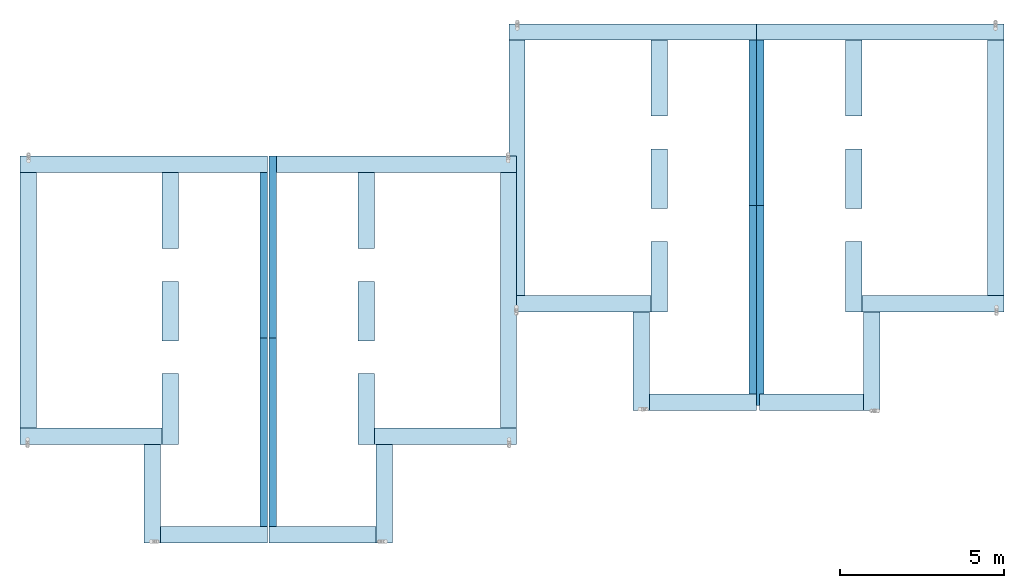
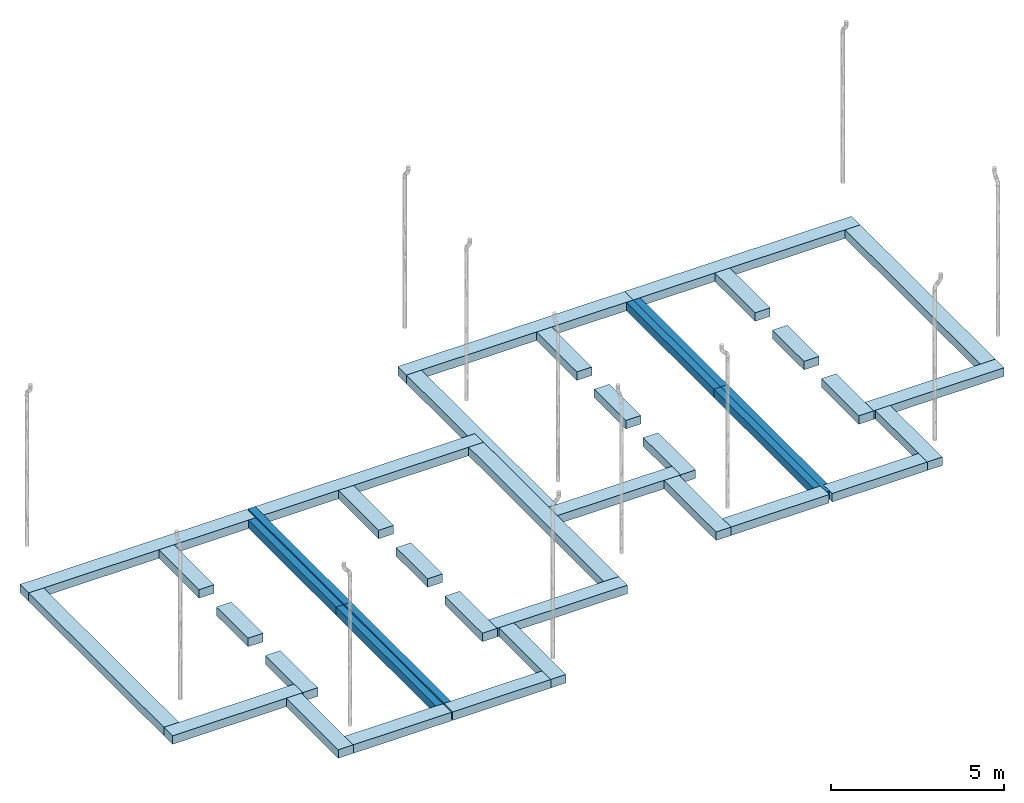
# One storey, incomplete: 32 footings.
"""IFC2X3 building model written with IfcOpenShell, lengths in metres."""

from ifc_helpers import new_model, entity, si_unit, converted_unit, derived_unit, direction, frame, frame_2d, origin, origin_2d_with_axis, place, context, subcontext, project, spatial, polyline, rectangle, outline, extrude, material, element, save


model = new_model("IFC2X3")

# Units and contexts
model_context = context("Model", 3, precision=1e-05, world=origin(), true_north=direction((6.12303176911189e-17, 1.0)))
body_context = subcontext(model_context, "Body", "Model", "MODEL_VIEW")
ifc_project = project(units=[si_unit("LENGTHUNIT", "METRE"), si_unit("AREAUNIT", "SQUARE_METRE"), si_unit("VOLUMEUNIT", "CUBIC_METRE"), converted_unit("PLANEANGLEUNIT", "DEGREE", entity("IfcRatioMeasure", 0.0174532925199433), si_unit("PLANEANGLEUNIT", "RADIAN"), dimensions=[0, 0, 0, 0, 0, 0, 0]), si_unit("MASSUNIT", "GRAM", prefix="KILO"), derived_unit("MASSDENSITYUNIT", [(si_unit("MASSUNIT", "GRAM", prefix="KILO"), 1), (si_unit("LENGTHUNIT", "METRE"), -3)]), si_unit("TIMEUNIT", "SECOND"), si_unit("FREQUENCYUNIT", "HERTZ"), si_unit("THERMODYNAMICTEMPERATUREUNIT", "DEGREE_CELSIUS"), derived_unit("THERMALTRANSMITTANCEUNIT", [(si_unit("MASSUNIT", "GRAM", prefix="KILO"), 1), (si_unit("THERMODYNAMICTEMPERATUREUNIT", "KELVIN"), -1), (si_unit("TIMEUNIT", "SECOND"), -3)]), derived_unit("VOLUMETRICFLOWRATEUNIT", [(si_unit("LENGTHUNIT", "METRE"), 3), (si_unit("TIMEUNIT", "SECOND"), -1)]), si_unit("ELECTRICCURRENTUNIT", "AMPERE"), si_unit("ELECTRICVOLTAGEUNIT", "VOLT"), si_unit("POWERUNIT", "WATT"), si_unit("FORCEUNIT", "NEWTON", prefix="KILO"), si_unit("ILLUMINANCEUNIT", "LUX"), si_unit("LUMINOUSFLUXUNIT", "LUMEN"), si_unit("LUMINOUSINTENSITYUNIT", "CANDELA"), derived_unit("USERDEFINED", [(si_unit("MASSUNIT", "GRAM", prefix="KILO"), -1), (si_unit("LENGTHUNIT", "METRE"), -2), (si_unit("TIMEUNIT", "SECOND"), 3), (si_unit("LUMINOUSFLUXUNIT", "LUMEN"), 1)]), derived_unit("LINEARVELOCITYUNIT", [(si_unit("LENGTHUNIT", "METRE"), 1), (si_unit("TIMEUNIT", "SECOND"), -1)]), si_unit("PRESSUREUNIT", "PASCAL"), derived_unit("USERDEFINED", [(si_unit("LENGTHUNIT", "METRE"), -2), (si_unit("MASSUNIT", "GRAM", prefix="KILO"), 1), (si_unit("TIMEUNIT", "SECOND"), -2)])], contexts=[model_context])

# Site, building, storey
site_placement = place(None, origin())
site = spatial("IfcSite", under=ifc_project, at=site_placement, Name="Surface", CompositionType="ELEMENT")
building_placement = place(site_placement, origin())
building = spatial("IfcBuilding", under=site, at=building_placement, CompositionType="ELEMENT")
storey_placement = place(building_placement, frame((0.0, 0.0, -1.0)))
storey = spatial("IfcBuildingStorey", under=building, at=storey_placement, Name="Plan de fondation", CompositionType="ELEMENT", Elevation=-1.0)

# Footings
ifc_material = material(Name="Béton")
footing_1_placement = place(storey_placement, origin())
element("IfcFooting", 1, at=footing_1_placement, inside=storey, material=ifc_material, Name="Semelle filante:semelle  ht 30 cm larg 50 cm", ObjectType="Semelle filante:semelle  ht 30 cm larg 50 cm", PredefinedType="STRIP_FOOTING", context=body_context, shape_type="SweptSolid", body=[
    extrude(rectangle(XDim=7.55826294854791, YDim=0.500000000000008, at=frame_2d((0.236032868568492, 0.125000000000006), x_axis=(1.0, 0.0))), frame((87.2698843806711, 92.2225239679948, -0.3)), (0.0, 0.0, 1.0), 0.3),
])
footing_2_placement = place(storey_placement, origin())
element("IfcFooting", 2, at=footing_2_placement, inside=storey, material=ifc_material, Name="Semelle filante:semelle  ht 30 cm larg 50 cm", ObjectType="Semelle filante:semelle  ht 30 cm larg 50 cm", PredefinedType="STRIP_FOOTING", context=body_context, shape_type="SweptSolid", body=[
    extrude(rectangle(XDim=2.15999999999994, YDim=0.500000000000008, at=frame_2d((0.116, 0.0499999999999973), x_axis=(1.0, 0.0))), frame((86.7467857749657, 84.7615239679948, -0.3), z_axis=(0.0, 0.0, 1.0), x_axis=(0.0, 1.0, 0.0)), (0.0, 0.0, 1.0), 0.3),
    extrude(rectangle(XDim=2.32000000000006, YDim=0.500000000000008, at=frame_2d((0.0, -8.67361737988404e-15), x_axis=(1.0, 0.0))), frame((86.6967857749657, 90.9375239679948, -0.3), z_axis=(0.0, 0.0, 1.0), x_axis=(0.0, -1.0, 0.0)), (0.0, 0.0, 1.0), 0.3),
    extrude(rectangle(XDim=1.82, YDim=0.500000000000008, at=frame_2d((0.0, -8.67361737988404e-15), x_axis=(1.0, 0.0))), frame((86.6967857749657, 87.8675239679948, -0.3), z_axis=(0.0, 0.0, 1.0), x_axis=(0.0, -1.0, 0.0)), (0.0, 0.0, 1.0), 0.3),
])
footing_3_placement = place(storey_placement, origin())
element("IfcFooting", 3, at=footing_3_placement, inside=storey, material=ifc_material, Name="Semelle filante:semelle  ht 30 cm larg 50 cm", ObjectType="Semelle filante:semelle  ht 30 cm larg 50 cm", PredefinedType="STRIP_FOOTING", context=body_context, shape_type="SweptSolid", body=[
    extrude(rectangle(XDim=4.33826294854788, YDim=0.500000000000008, at=frame_2d((-0.295590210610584, -0.0357142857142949), x_axis=(1.0, 0.0))), frame((88.820327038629, 84.0118096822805, -0.3), z_axis=(0.0, 0.0, 1.0), x_axis=(-1.0, 0.0, 0.0)), (0.0, 0.0, 1.0), 0.3),
])
footing_4_placement = place(storey_placement, origin())
element("IfcFooting", 4, at=footing_4_placement, inside=storey, material=ifc_material, Name="Semelle filante:semelle  ht 30 cm larg 50 cm", ObjectType="Semelle filante:semelle  ht 30 cm larg 50 cm", PredefinedType="STRIP_FOOTING", context=body_context, shape_type="SweptSolid", body=[
    extrude(rectangle(XDim=2.99999999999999, YDim=0.500000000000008, at=frame_2d((0.199999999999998, -0.0500000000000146), x_axis=(1.0, 0.0))), frame((87.1967857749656, 82.0975239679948, -0.3), z_axis=(0.0, 0.0, 1.0), x_axis=(0.0, 1.0, 0.0)), (0.0, 0.0, 1.0), 0.3),
])
footing_5_placement = place(storey_placement, origin())
element("IfcFooting", 5, at=footing_5_placement, inside=storey, material=ifc_material, Name="Semelle filante:semelle  ht 30 cm larg 50 cm", ObjectType="Semelle filante:semelle  ht 30 cm larg 50 cm", PredefinedType="STRIP_FOOTING", context=body_context, shape_type="SweptSolid", body=[
    extrude(rectangle(XDim=3.16999999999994, YDim=0.500000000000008, at=frame_2d((0.506666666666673, -0.0249999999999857), x_axis=(1.0, 0.0))), frame((84.905119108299, 81.0725239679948, -0.3)), (0.0, 0.0, 1.0), 0.3),
])
footing_6_placement = place(storey_placement, origin())
element("IfcFooting", 6, at=footing_6_placement, inside=storey, material=ifc_material, Name="Semelle filante:semelle  ht 30 cm larg 50 cm", ObjectType="Semelle filante:semelle  ht 30 cm larg 50 cm", PredefinedType="STRIP_FOOTING", context=body_context, shape_type="SweptSolid", body=[
    extrude(rectangle(XDim=7.80000000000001, YDim=0.500000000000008, at=frame_2d((-8.65973959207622e-15, -8.67361737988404e-15), x_axis=(1.0, 0.0))), frame((91.0350487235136, 88.1975239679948, -0.3), z_axis=(0.0, 0.0, 1.0), x_axis=(0.0, -1.0, 0.0)), (0.0, 0.0, 1.0), 0.3),
])
footing_7_placement = place(storey_placement, origin())
element("IfcFooting", 7, at=footing_7_placement, inside=storey, material=ifc_material, Name="Semelle filante:semelle  excentrée ht 30 cm larg 40 cm", ObjectType="Semelle filante:semelle  excentrée ht 30 cm larg 40 cm", PredefinedType="STRIP_FOOTING", context=body_context, shape_type="SweptSolid", body=[
    extrude(rectangle(XDim=5.0461876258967, YDim=0.23, at=frame_2d((-8.65973959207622e-15, 8.66667848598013e-15), x_axis=(1.0, 0.0))), frame((83.8417857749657, 89.5744301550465, -0.3), z_axis=(0.0, 0.0, 1.0), x_axis=(0.0, 1.0, 0.0)), (0.0, 0.0, 1.0), 0.3),
])
footing_8_placement = place(storey_placement, origin())
element("IfcFooting", 8, at=footing_8_placement, inside=storey, material=ifc_material, Name="Semelle filante:semelle  excentrée ht 30 cm larg 40 cm", ObjectType="Semelle filante:semelle  excentrée ht 30 cm larg 40 cm", PredefinedType="STRIP_FOOTING", context=body_context, shape_type="SweptSolid", body=[
    extrude(outline(polyline([(-4.20986598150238, -0.0942857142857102), (1.54394639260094, -0.0942857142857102), (1.89394639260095, -0.0942857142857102), (1.89394639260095, 0.00571428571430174), (1.54394639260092, 0.00571428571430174), (1.54394639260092, 0.13571428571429), (-4.20986598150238, 0.13571428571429), (-4.20986598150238, -0.0942857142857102)])), frame((83.8210714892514, 82.8414703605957, -0.3), z_axis=(0.0, 0.0, 1.0), x_axis=(0.0, -1.0, 0.0)), (0.0, 0.0, 1.0), 0.3),
])
footing_9_placement = place(storey_placement, origin())
element("IfcFooting", 9, at=footing_9_placement, inside=storey, material=ifc_material, Name="Semelle filante:semelle  ht 30 cm larg 50 cm", ObjectType="Semelle filante:semelle  ht 30 cm larg 50 cm", PredefinedType="STRIP_FOOTING", context=body_context, shape_type="SweptSolid", body=[
    extrude(rectangle(XDim=7.32826294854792, YDim=0.500000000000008, at=frame_2d((-0.592483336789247, 0.0625000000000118), x_axis=(1.0, 0.0))), frame((73.3412411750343, 88.2452566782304, -0.3)), (0.0, 0.0, 1.0), 0.3),
])
footing_10_placement = place(storey_placement, origin())
element("IfcFooting", 10, at=footing_10_placement, inside=storey, material=ifc_material, Name="Semelle filante:semelle  ht 30 cm larg 50 cm", ObjectType="Semelle filante:semelle  ht 30 cm larg 50 cm", PredefinedType="STRIP_FOOTING", context=body_context, shape_type="SweptSolid", body=[
    extrude(rectangle(XDim=2.15999999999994, YDim=0.499999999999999, at=frame_2d((0.115999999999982, 0.049999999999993), x_axis=(1.0, 0.0))), frame((71.8746263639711, 80.7217566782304, -0.3), z_axis=(0.0, 0.0, 1.0), x_axis=(0.0, 1.0, 0.0)), (0.0, 0.0, 1.0), 0.3),
    extrude(rectangle(XDim=2.32000000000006, YDim=0.499999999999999, at=frame_2d((0.0, -4.34374758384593e-15), x_axis=(1.0, 0.0))), frame((71.8246263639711, 86.8977566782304, -0.3), z_axis=(0.0, 0.0, 1.0), x_axis=(0.0, -1.0, 0.0)), (0.0, 0.0, 1.0), 0.3),
    extrude(rectangle(XDim=1.82, YDim=0.499999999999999, at=frame_2d((0.0, -4.34374758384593e-15), x_axis=(1.0, 0.0))), frame((71.8246263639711, 83.8277566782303, -0.3), z_axis=(0.0, 0.0, 1.0), x_axis=(0.0, -1.0, 0.0)), (0.0, 0.0, 1.0), 0.3),
])
footing_11_placement = place(storey_placement, origin())
element("IfcFooting", 11, at=footing_11_placement, inside=storey, material=ifc_material, Name="Semelle filante:semelle  ht 30 cm larg 50 cm", ObjectType="Semelle filante:semelle  ht 30 cm larg 50 cm", PredefinedType="STRIP_FOOTING", context=body_context, shape_type="SweptSolid", body=[
    extrude(rectangle(XDim=4.33826294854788, YDim=0.500000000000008, at=frame_2d((-0.295590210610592, -0.0357142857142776), x_axis=(1.0, 0.0))), frame((73.9481676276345, 79.9720423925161, -0.3), z_axis=(0.0, 0.0, 1.0), x_axis=(-1.0, 0.0, 0.0)), (0.0, 0.0, 1.0), 0.3),
])
footing_12_placement = place(storey_placement, origin())
element("IfcFooting", 12, at=footing_12_placement, inside=storey, material=ifc_material, Name="Semelle filante:semelle  ht 30 cm larg 50 cm", ObjectType="Semelle filante:semelle  ht 30 cm larg 50 cm", PredefinedType="STRIP_FOOTING", context=body_context, shape_type="SweptSolid", body=[
    extrude(rectangle(XDim=3.0, YDim=0.499999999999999, at=frame_2d((0.199999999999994, -0.0500000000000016), x_axis=(1.0, 0.0))), frame((72.3246263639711, 78.0577566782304, -0.3), z_axis=(0.0, 0.0, 1.0), x_axis=(0.0, 1.0, 0.0)), (0.0, 0.0, 1.0), 0.3),
])
footing_13_placement = place(storey_placement, origin())
element("IfcFooting", 13, at=footing_13_placement, inside=storey, material=ifc_material, Name="Semelle filante:semelle  ht 30 cm larg 50 cm", ObjectType="Semelle filante:semelle  ht 30 cm larg 50 cm", PredefinedType="STRIP_FOOTING", context=body_context, shape_type="SweptSolid", body=[
    extrude(rectangle(XDim=3.26999999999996, YDim=0.499999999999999, at=frame_2d((0.280999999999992, -0.0500000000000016), x_axis=(1.0, 0.0))), frame((70.2086263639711, 77.0577566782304, -0.3)), (0.0, 0.0, 1.0), 0.3),
])
footing_14_placement = place(storey_placement, origin())
element("IfcFooting", 14, at=footing_14_placement, inside=storey, material=ifc_material, Name="Semelle filante:semelle  ht 30 cm larg 50 cm", ObjectType="Semelle filante:semelle  ht 30 cm larg 50 cm", PredefinedType="STRIP_FOOTING", context=body_context, shape_type="SweptSolid", body=[
    extrude(rectangle(XDim=7.79999999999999, YDim=0.499999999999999, at=frame_2d((-0.0367442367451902, -0.0833333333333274), x_axis=(1.0, 0.0))), frame((76.2462226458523, 84.1210124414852, -0.3), z_axis=(0.0, 0.0, 1.0), x_axis=(0.0, -1.0, 0.0)), (0.0, 0.0, 1.0), 0.3),
])
footing_15_placement = place(storey_placement, origin())
element("IfcFooting", 15, at=footing_15_placement, inside=storey, material=ifc_material, Name="Semelle filante:semelle  excentrée ht 30 cm larg 40 cm", ObjectType="Semelle filante:semelle  excentrée ht 30 cm larg 40 cm", PredefinedType="STRIP_FOOTING", context=body_context, shape_type="SweptSolid", body=[
    extrude(rectangle(XDim=5.5461876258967, YDim=0.23, at=frame_2d((-0.454618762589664, 0.0230000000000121), x_axis=(1.0, 0.0))), frame((68.9926263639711, 86.2392816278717, -0.3), z_axis=(0.0, 0.0, 1.0), x_axis=(0.0, 1.0, 0.0)), (0.0, 0.0, 1.0), 0.3),
])
footing_16_placement = place(storey_placement, origin())
element("IfcFooting", 16, at=footing_16_placement, inside=storey, material=ifc_material, Name="Semelle filante:semelle  excentrée ht 30 cm larg 40 cm", ObjectType="Semelle filante:semelle  excentrée ht 30 cm larg 40 cm", PredefinedType="STRIP_FOOTING", context=body_context, shape_type="SweptSolid", body=[
    extrude(rectangle(XDim=5.75381237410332, YDim=0.23, at=origin_2d_with_axis()), frame((68.9696263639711, 80.134662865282, -0.3), z_axis=(0.0, 0.0, 1.0), x_axis=(0.0, -1.0, 0.0)), (0.0, 0.0, 1.0), 0.3),
])
footing_17_placement = place(storey_placement, origin())
element("IfcFooting", 17, at=footing_17_placement, inside=storey, material=ifc_material, Name="Semelle filante:semelle  ht 30 cm larg 50 cm", ObjectType="Semelle filante:semelle  ht 30 cm larg 50 cm", PredefinedType="STRIP_FOOTING", context=body_context, shape_type="SweptSolid", body=[
    extrude(rectangle(XDim=7.55826294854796, YDim=0.500000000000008, at=frame_2d((0.236032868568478, -0.125), x_axis=(1.0, 0.0))), frame((65.2715277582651, 88.1827566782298, -0.3), z_axis=(0.0, 0.0, 1.0), x_axis=(-1.0, 0.0, 0.0)), (0.0, 0.0, 1.0), 0.3),
])
footing_18_placement = place(storey_placement, origin())
element("IfcFooting", 18, at=footing_18_placement, inside=storey, material=ifc_material, Name="Semelle filante:semelle  ht 30 cm larg 50 cm", ObjectType="Semelle filante:semelle  ht 30 cm larg 50 cm", PredefinedType="STRIP_FOOTING", context=body_context, shape_type="SweptSolid", body=[
    extrude(rectangle(XDim=2.16000000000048, YDim=0.499999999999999, at=frame_2d((0.116000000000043, -0.0499999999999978), x_axis=(1.0, 0.0))), frame((65.7946263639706, 80.72175667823, -0.3), z_axis=(0.0, 0.0, 1.0), x_axis=(0.0, 1.0, 0.0)), (0.0, 0.0, 1.0), 0.3),
    extrude(rectangle(XDim=2.31999999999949, YDim=0.499999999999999, at=frame_2d((8.65973959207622e-15, -4.34374758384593e-15), x_axis=(1.0, 0.0))), frame((65.8446263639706, 86.8977566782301, -0.3), z_axis=(0.0, 0.0, 1.0), x_axis=(0.0, -1.0, 0.0)), (0.0, 0.0, 1.0), 0.3),
    extrude(rectangle(XDim=1.82, YDim=0.499999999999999, at=origin_2d_with_axis()), frame((65.8446263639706, 83.8277566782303, -0.3), z_axis=(0.0, 0.0, 1.0), x_axis=(0.0, -1.0, 0.0)), (0.0, 0.0, 1.0), 0.3),
])
footing_19_placement = place(storey_placement, origin())
element("IfcFooting", 19, at=footing_19_placement, inside=storey, material=ifc_material, Name="Semelle filante:semelle  ht 30 cm larg 50 cm", ObjectType="Semelle filante:semelle  ht 30 cm larg 50 cm", PredefinedType="STRIP_FOOTING", context=body_context, shape_type="SweptSolid", body=[
    extrude(rectangle(XDim=4.33826294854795, YDim=0.500000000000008, at=frame_2d((-0.295590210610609, 0.0357142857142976), x_axis=(1.0, 0.0))), frame((63.7210851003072, 79.9720423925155, -0.3)), (0.0, 0.0, 1.0), 0.3),
])
footing_20_placement = place(storey_placement, origin())
element("IfcFooting", 20, at=footing_20_placement, inside=storey, material=ifc_material, Name="Semelle filante:semelle  ht 30 cm larg 50 cm", ObjectType="Semelle filante:semelle  ht 30 cm larg 50 cm", PredefinedType="STRIP_FOOTING", context=body_context, shape_type="SweptSolid", body=[
    extrude(rectangle(XDim=3.00000000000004, YDim=0.499999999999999, at=frame_2d((0.200000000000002, 0.0500000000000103), x_axis=(1.0, 0.0))), frame((65.3446263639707, 78.0577566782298, -0.3), z_axis=(0.0, 0.0, 1.0), x_axis=(0.0, 1.0, 0.0)), (0.0, 0.0, 1.0), 0.3),
])
footing_21_placement = place(storey_placement, origin())
element("IfcFooting", 21, at=footing_21_placement, inside=storey, material=ifc_material, Name="Semelle filante:semelle  ht 30 cm larg 50 cm", ObjectType="Semelle filante:semelle  ht 30 cm larg 50 cm", PredefinedType="STRIP_FOOTING", context=body_context, shape_type="SweptSolid", body=[
    extrude(rectangle(XDim=3.26999999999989, YDim=0.499999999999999, at=frame_2d((0.281000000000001, 0.050000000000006), x_axis=(1.0, 0.0))), frame((67.4606263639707, 77.0577566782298, -0.3), z_axis=(0.0, 0.0, 1.0), x_axis=(-1.0, 0.0, 0.0)), (0.0, 0.0, 1.0), 0.3),
])
footing_22_placement = place(storey_placement, origin())
element("IfcFooting", 22, at=footing_22_placement, inside=storey, material=ifc_material, Name="Semelle filante:semelle  ht 30 cm larg 50 cm", ObjectType="Semelle filante:semelle  ht 30 cm larg 50 cm", PredefinedType="STRIP_FOOTING", context=body_context, shape_type="SweptSolid", body=[
    extrude(rectangle(XDim=7.79999999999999, YDim=0.499999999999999, at=frame_2d((-8.65973959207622e-15, 4.34374758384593e-15), x_axis=(1.0, 0.0))), frame((61.5063634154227, 84.1577566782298, -0.3), z_axis=(0.0, 0.0, 1.0), x_axis=(0.0, -1.0, 0.0)), (0.0, 0.0, 1.0), 0.3),
])
footing_23_placement = place(storey_placement, origin())
element("IfcFooting", 23, at=footing_23_placement, inside=storey, material=ifc_material, Name="Semelle filante:semelle  excentrée ht 30 cm larg 40 cm", ObjectType="Semelle filante:semelle  excentrée ht 30 cm larg 40 cm", PredefinedType="STRIP_FOOTING", context=body_context, shape_type="SweptSolid", body=[
    extrude(rectangle(XDim=5.0461876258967, YDim=0.23, at=frame_2d((8.65973959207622e-15, 0.0), x_axis=(1.0, 0.0))), frame((68.6996263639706, 85.5346628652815, -0.3), z_axis=(0.0, 0.0, 1.0), x_axis=(0.0, 1.0, 0.0)), (0.0, 0.0, 1.0), 0.3),
])
footing_24_placement = place(storey_placement, origin())
element("IfcFooting", 24, at=footing_24_placement, inside=storey, material=ifc_material, Name="Semelle filante:semelle  excentrée ht 30 cm larg 40 cm", ObjectType="Semelle filante:semelle  excentrée ht 30 cm larg 40 cm", PredefinedType="STRIP_FOOTING", context=body_context, shape_type="SweptSolid", body=[
    extrude(rectangle(XDim=5.75381237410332, YDim=0.23, at=frame_2d((-4.44089209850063e-15, -4.33680868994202e-15), x_axis=(1.0, 0.0))), frame((68.6996263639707, 80.1346628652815, -0.3), z_axis=(0.0, 0.0, 1.0), x_axis=(0.0, -1.0, 0.0)), (0.0, 0.0, 1.0), 0.3),
])
footing_25_placement = place(storey_placement, origin())
element("IfcFooting", 25, at=footing_25_placement, inside=storey, material=ifc_material, Name="Semelle filante:semelle  ht 30 cm larg 50 cm", ObjectType="Semelle filante:semelle  ht 30 cm larg 50 cm", PredefinedType="STRIP_FOOTING", context=body_context, shape_type="SweptSolid", body=[
    extrude(rectangle(XDim=7.55402976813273, YDim=0.500000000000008, at=frame_2d((0.237091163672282, -0.124999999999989), x_axis=(1.0, 0.0))), frame((80.1868620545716, 92.2225239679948, -0.3), z_axis=(0.0, 0.0, 1.0), x_axis=(-1.0, 0.0, 0.0)), (0.0, 0.0, 1.0), 0.3),
])
footing_26_placement = place(storey_placement, origin())
element("IfcFooting", 26, at=footing_26_placement, inside=storey, material=ifc_material, Name="Semelle filante:semelle  ht 30 cm larg 50 cm", ObjectType="Semelle filante:semelle  ht 30 cm larg 50 cm", PredefinedType="STRIP_FOOTING", context=body_context, shape_type="SweptSolid", body=[
    extrude(rectangle(XDim=2.15999999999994, YDim=0.500000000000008, at=frame_2d((0.116, -0.04999999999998), x_axis=(1.0, 0.0))), frame((80.7110189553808, 84.7615239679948, -0.3), z_axis=(0.0, 0.0, 1.0), x_axis=(0.0, 1.0, 0.0)), (0.0, 0.0, 1.0), 0.3),
    extrude(rectangle(XDim=2.32000000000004, YDim=0.500000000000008, at=frame_2d((-8.65973959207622e-15, 8.67361737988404e-15), x_axis=(1.0, 0.0))), frame((80.7610189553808, 90.9375239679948, -0.3), z_axis=(0.0, 0.0, 1.0), x_axis=(0.0, 1.0, 0.0)), (0.0, 0.0, 1.0), 0.3),
    extrude(rectangle(XDim=1.82, YDim=0.500000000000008, at=frame_2d((0.0, 8.67361737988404e-15), x_axis=(1.0, 0.0))), frame((80.7610189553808, 87.8675239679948, -0.3), z_axis=(0.0, 0.0, 1.0), x_axis=(0.0, -1.0, 0.0)), (0.0, 0.0, 1.0), 0.3),
])
footing_27_placement = place(storey_placement, origin())
element("IfcFooting", 27, at=footing_27_placement, inside=storey, material=ifc_material, Name="Semelle filante:semelle  ht 30 cm larg 50 cm", ObjectType="Semelle filante:semelle  ht 30 cm larg 50 cm", PredefinedType="STRIP_FOOTING", context=body_context, shape_type="SweptSolid", body=[
    extrude(rectangle(XDim=4.09812964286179, YDim=0.500000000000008, at=frame_2d((0.244133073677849, -0.035714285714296), x_axis=(1.0, 0.0))), frame((78.7060872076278, 84.0118096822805, -0.3), z_axis=(0.0, 0.0, 1.0), x_axis=(-1.0, 0.0, 0.0)), (0.0, 0.0, 1.0), 0.3),
])
footing_28_placement = place(storey_placement, origin())
element("IfcFooting", 28, at=footing_28_placement, inside=storey, material=ifc_material, Name="Semelle filante:semelle  ht 30 cm larg 50 cm", ObjectType="Semelle filante:semelle  ht 30 cm larg 50 cm", PredefinedType="STRIP_FOOTING", context=body_context, shape_type="SweptSolid", body=[
    extrude(rectangle(XDim=3.00000000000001, YDim=0.500000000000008, at=frame_2d((0.200000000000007, 0.0499999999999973), x_axis=(1.0, 0.0))), frame((80.2610189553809, 82.0975239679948, -0.3), z_axis=(0.0, 0.0, 1.0), x_axis=(0.0, 1.0, 0.0)), (0.0, 0.0, 1.0), 0.3),
])
footing_29_placement = place(storey_placement, origin())
element("IfcFooting", 29, at=footing_29_placement, inside=storey, material=ifc_material, Name="Semelle filante:semelle  ht 30 cm larg 50 cm", ObjectType="Semelle filante:semelle  ht 30 cm larg 50 cm", PredefinedType="STRIP_FOOTING", context=body_context, shape_type="SweptSolid", body=[
    extrude(rectangle(XDim=3.26576681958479, YDim=0.500000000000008, at=frame_2d((0.506666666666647, 0.0249999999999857), x_axis=(1.0, 0.0))), frame((82.6005690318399, 81.0725239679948, -0.3), z_axis=(0.0, 0.0, 1.0), x_axis=(-1.0, 0.0, 0.0)), (0.0, 0.0, 1.0), 0.3),
])
footing_30_placement = place(storey_placement, origin())
element("IfcFooting", 30, at=footing_30_placement, inside=storey, material=ifc_material, Name="Semelle filante:semelle  ht 30 cm larg 50 cm", ObjectType="Semelle filante:semelle  ht 30 cm larg 50 cm", PredefinedType="STRIP_FOOTING", context=body_context, shape_type="SweptSolid", body=[
    extrude(outline(polyline([(-3.81704312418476, -0.245771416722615), (-0.277275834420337, -0.245771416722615), (-0.277275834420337, -0.00563811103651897), (0.222724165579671, -0.00563811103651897), (3.98295687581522, -0.00563811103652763), (3.98295687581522, 0.254228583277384), (-3.81704312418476, 0.254228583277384), (-3.81704312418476, -0.245771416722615)])), frame((76.4185274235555, 88.28048084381, -0.3), z_axis=(0.0, 0.0, 1.0), x_axis=(0.0, -1.0, 0.0)), (0.0, 0.0, 1.0), 0.3),
])
footing_31_placement = place(storey_placement, origin())
element("IfcFooting", 31, at=footing_31_placement, inside=storey, material=ifc_material, Name="Semelle filante:semelle  excentrée ht 30 cm larg 40 cm", ObjectType="Semelle filante:semelle  excentrée ht 30 cm larg 40 cm", PredefinedType="STRIP_FOOTING", context=body_context, shape_type="SweptSolid", body=[
    extrude(rectangle(XDim=0.225766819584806, YDim=5.04618762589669, at=origin_2d_with_axis()), frame((83.6139023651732, 89.5744301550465, -0.3)), (0.0, 0.0, 1.0), 0.3),
])
footing_32_placement = place(storey_placement, origin())
element("IfcFooting", 32, at=footing_32_placement, inside=storey, material=ifc_material, Name="Semelle filante:semelle  excentrée ht 30 cm larg 40 cm", ObjectType="Semelle filante:semelle  excentrée ht 30 cm larg 40 cm", PredefinedType="STRIP_FOOTING", context=body_context, shape_type="SweptSolid", body=[
    extrude(rectangle(XDim=5.75381237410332, YDim=0.225766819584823, at=frame_2d((0.0, 8.66667848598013e-15), x_axis=(1.0, 0.0))), frame((83.6139023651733, 84.1744301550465, -0.3), z_axis=(0.0, 0.0, 1.0), x_axis=(0.0, 1.0, 0.0)), (0.0, 0.0, 1.0), 0.3),
])

save(model, "model.ifc")
